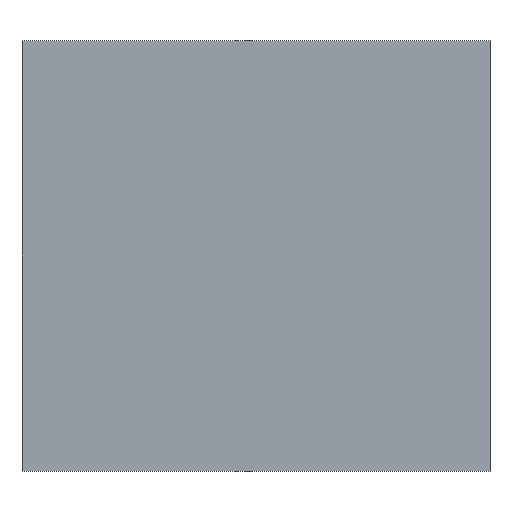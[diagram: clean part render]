
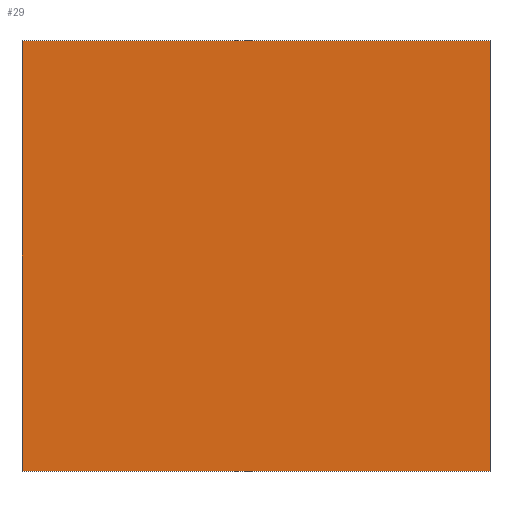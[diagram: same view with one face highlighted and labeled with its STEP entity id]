
A CAD part, front view. The second image highlights one B-rep face of the part: STEP entity #29.
In plain terms, the highlighted planar face has unit normal (0, -1, 0).
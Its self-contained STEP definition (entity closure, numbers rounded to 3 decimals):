
#29 = ADVANCED_FACE ( 'NONE', ( #1320 ), #71, .F. ) ;
#55 = VECTOR ( 'NONE', #132, 1000. ) ;
#69 = CARTESIAN_POINT ( 'NONE',  ( 0., -23., -23. ) ) ;
#71 = PLANE ( 'NONE',  #1294 ) ;
#131 = CARTESIAN_POINT ( 'NONE',  ( 50., -23., 23. ) ) ;
#132 = DIRECTION ( 'NONE',  ( 0., 0., -1. ) ) ;
#157 = VECTOR ( 'NONE', #900, 1000. ) ;
#163 = VERTEX_POINT ( 'NONE', #915 ) ;
#167 = EDGE_CURVE ( 'NONE', #163, #1201, #237, .T. ) ;
#180 = VERTEX_POINT ( 'NONE', #1145 ) ;
#236 = LINE ( 'NONE', #674, #157 ) ;
#237 = LINE ( 'NONE', #1116, #55 ) ;
#243 = LINE ( 'NONE', #131, #1167 ) ;
#327 = DIRECTION ( 'NONE',  ( 0., 1., 0. ) ) ;
#521 = DIRECTION ( 'NONE',  ( -1., 0., 0. ) ) ;
#628 = CARTESIAN_POINT ( 'NONE',  ( 50., -23., 23. ) ) ;
#674 = CARTESIAN_POINT ( 'NONE',  ( 50., -23., 23. ) ) ;
#692 = VECTOR ( 'NONE', #521, 1000. ) ;
#705 = ORIENTED_EDGE ( 'NONE', *, *, #1306, .F. ) ;
#752 = DIRECTION ( 'NONE',  ( 0., 0., 1. ) ) ;
#782 = EDGE_CURVE ( 'NONE', #1151, #163, #243, .T. ) ;
#794 = EDGE_LOOP ( 'NONE', ( #840, #705, #925, #1325 ) ) ;
#840 = ORIENTED_EDGE ( 'NONE', *, *, #167, .T. ) ;
#865 = EDGE_CURVE ( 'NONE', #1151, #180, #236, .T. ) ;
#900 = DIRECTION ( 'NONE',  ( 0., 0., -1. ) ) ;
#915 = CARTESIAN_POINT ( 'NONE',  ( 0., -23., 23. ) ) ;
#925 = ORIENTED_EDGE ( 'NONE', *, *, #865, .F. ) ;
#1071 = LINE ( 'NONE', #1078, #692 ) ;
#1078 = CARTESIAN_POINT ( 'NONE',  ( 50., -23., -23. ) ) ;
#1115 = DIRECTION ( 'NONE',  ( -1., 0., 0. ) ) ;
#1116 = CARTESIAN_POINT ( 'NONE',  ( 0., -23., 23. ) ) ;
#1145 = CARTESIAN_POINT ( 'NONE',  ( 50., -23., -23. ) ) ;
#1151 = VERTEX_POINT ( 'NONE', #1451 ) ;
#1167 = VECTOR ( 'NONE', #1115, 1000. ) ;
#1201 = VERTEX_POINT ( 'NONE', #69 ) ;
#1294 = AXIS2_PLACEMENT_3D ( 'NONE', #628, #327, #752 ) ;
#1306 = EDGE_CURVE ( 'NONE', #180, #1201, #1071, .T. ) ;
#1320 = FACE_OUTER_BOUND ( 'NONE', #794, .T. ) ;
#1325 = ORIENTED_EDGE ( 'NONE', *, *, #782, .T. ) ;
#1451 = CARTESIAN_POINT ( 'NONE',  ( 50., -23., 23. ) ) ;
